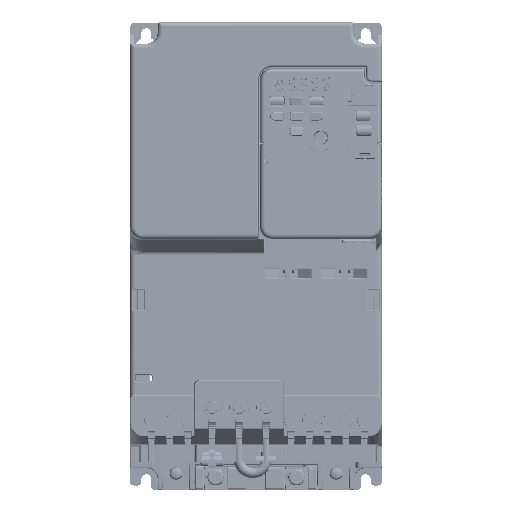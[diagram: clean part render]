
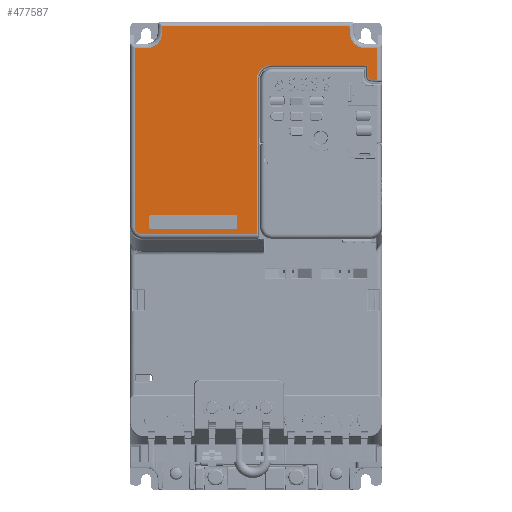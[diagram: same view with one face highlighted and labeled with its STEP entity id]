
A CAD part, top view. The second image highlights one B-rep face of the part: STEP entity #477587.
In plain terms, the highlighted planar face has unit normal (0, 0, 1).
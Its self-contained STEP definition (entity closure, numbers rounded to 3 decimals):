
#399556=CARTESIAN_POINT('',(-62.997,16.394,
70.));
#399557=DIRECTION('',(0.,0.,
-1.));
#399558=DIRECTION('',(-0.002,-1.,0.));
#399559=AXIS2_PLACEMENT_3D('',#399556,#399557,#399558);
#399561=CARTESIAN_POINT('',(-60.694,124.,70.));
#399562=DIRECTION('',(0.,0.,1.));
#399563=DIRECTION('',(0.,-1.,0.));
#399564=AXIS2_PLACEMENT_3D('',#399561,#399562,#399563);
#399566=DIRECTION('',(0.052,0.999,0.));
#399567=VECTOR('',#399566,3.95);
#399568=CARTESIAN_POINT('',(-52.205,123.555,70.));
#399569=LINE('',#399568,#399567);
#399570=DIRECTION('',(0.052,-0.999,0.));
#399571=VECTOR('',#399570,3.95);
#399572=CARTESIAN_POINT('',(51.999,127.5,70.));
#399573=LINE('',#399572,#399571);
#399574=CARTESIAN_POINT('',(60.694,124.,70.));
#399575=DIRECTION('',(0.,0.,1.));
#399576=DIRECTION('',(-0.999,-0.052,0.));
#399577=AXIS2_PLACEMENT_3D('',#399574,#399575,#399576);
#399579=DIRECTION('',(-0.999,0.052,0.));
#399580=VECTOR('',#399579,3.587);
#399581=CARTESIAN_POINT('',(67.5,97.748,
70.));
#399582=LINE('',#399581,#399580);
#399583=CARTESIAN_POINT('',(64.,99.5,70.));
#399584=DIRECTION('',(0.,0.,-1.));
#399585=DIRECTION('',(-0.052,-0.999,0.));
#399586=AXIS2_PLACEMENT_3D('',#399583,#399584,#399585);
#399588=CARTESIAN_POINT('',(9.,97.5,70.));
#399589=DIRECTION('',(0.,0.,1.));
#399590=DIRECTION('',(0.,1.,0.));
#399591=AXIS2_PLACEMENT_3D('',#399588,#399589,#399590);
#399593=DIRECTION('',(0.,1.,0.));
#399594=VECTOR('',#399593,85.608);
#399595=CARTESIAN_POINT('',(0.317,11.892,
70.));
#399596=LINE('',#399595,#399594);
#399620=DIRECTION('',(1.,0.,0.));
#399621=VECTOR('',#399620,51.434);
#399622=CARTESIAN_POINT('',(9.,106.183,70.));
#399623=LINE('',#399622,#399621);
#399785=DIRECTION('',(0.,-1.,0.));
#399786=VECTOR('',#399785,4.684);
#399787=CARTESIAN_POINT('',(62.433,104.184,
70.));
#399788=LINE('',#399787,#399786);
#399793=CARTESIAN_POINT('',(60.434,106.183,
70.));
#399794=CARTESIAN_POINT('',(60.65,106.183,
70.));
#399795=CARTESIAN_POINT('',(61.059,106.117,
70.));
#399796=CARTESIAN_POINT('',(61.63,105.828,
70.));
#399797=CARTESIAN_POINT('',(62.079,105.379,
70.));
#399798=CARTESIAN_POINT('',(62.367,104.808,
70.));
#399799=CARTESIAN_POINT('',(62.433,104.4,
70.));
#399800=CARTESIAN_POINT('',(62.433,104.184,
70.));
#399827=DIRECTION('',(0.,1.,0.));
#399828=VECTOR('',#399827,17.752);
#399829=CARTESIAN_POINT('',(67.5,97.748,
70.));
#399830=LINE('',#399829,#399828);
#399881=DIRECTION('',(-1.,0.,0.));
#399882=VECTOR('',#399881,6.806);
#399883=CARTESIAN_POINT('',(67.5,115.5,70.));
#399884=LINE('',#399883,#399882);
#412576=DIRECTION('',(1.,0.,0.));
#412577=VECTOR('',#412576,63.318);
#412578=CARTESIAN_POINT('',(-63.001,11.892,
70.));
#412579=LINE('',#412578,#412577);
#414355=DIRECTION('',(0.,-1.,0.));
#414356=VECTOR('',#414355,99.101);
#414357=CARTESIAN_POINT('',(-67.5,115.5,70.));
#414358=LINE('',#414357,#414356);
#414381=DIRECTION('',(-1.,0.,0.));
#414382=VECTOR('',#414381,6.806);
#414383=CARTESIAN_POINT('',(-60.694,115.5,70.));
#414384=LINE('',#414383,#414382);
#420221=DIRECTION('',(-1.,0.,0.));
#420222=VECTOR('',#420221,103.997);
#420223=CARTESIAN_POINT('',(51.999,127.5,70.));
#420224=LINE('',#420223,#420222);
#451230=CARTESIAN_POINT('',(52.205,123.555,70.));
#451231=CARTESIAN_POINT('',(60.694,115.5,70.));
#451232=VERTEX_POINT('',#451230);
#451233=VERTEX_POINT('',#451231);
#451234=CARTESIAN_POINT('',(0.317,11.892,
70.));
#451235=CARTESIAN_POINT('',(0.317,97.5,70.));
#451236=VERTEX_POINT('',#451234);
#451237=VERTEX_POINT('',#451235);
#451238=CARTESIAN_POINT('',(-63.001,11.892,
70.));
#451239=VERTEX_POINT('',#451238);
#451240=CARTESIAN_POINT('',(-67.5,16.402,
70.));
#451241=VERTEX_POINT('',#451240);
#451242=CARTESIAN_POINT('',(-67.5,115.5,70.));
#451243=VERTEX_POINT('',#451242);
#451244=CARTESIAN_POINT('',(-60.694,115.5,70.));
#451245=VERTEX_POINT('',#451244);
#451246=CARTESIAN_POINT('',(-52.205,123.555,70.));
#451247=VERTEX_POINT('',#451246);
#451248=CARTESIAN_POINT('',(-51.999,127.5,70.));
#451249=VERTEX_POINT('',#451248);
#451250=CARTESIAN_POINT('',(51.999,127.5,70.));
#451251=VERTEX_POINT('',#451250);
#451252=CARTESIAN_POINT('',(67.5,115.5,70.));
#451253=VERTEX_POINT('',#451252);
#451254=CARTESIAN_POINT('',(67.5,97.748,
70.));
#451255=VERTEX_POINT('',#451254);
#451256=CARTESIAN_POINT('',(63.918,97.936,70.));
#451257=VERTEX_POINT('',#451256);
#451258=CARTESIAN_POINT('',(62.433,99.5,70.));
#451259=VERTEX_POINT('',#451258);
#451260=CARTESIAN_POINT('',(62.433,104.184,
70.));
#451261=VERTEX_POINT('',#451260);
#451262=VERTEX_POINT('',#399793);
#451263=CARTESIAN_POINT('',(9.,106.183,70.));
#451264=VERTEX_POINT('',#451263);
#477545=CARTESIAN_POINT('',(0.,0.,70.));
#477546=DIRECTION('',(0.,0.,1.));
#477547=DIRECTION('',(1.,0.,0.));
#477548=AXIS2_PLACEMENT_3D('',#477545,#477546,#477547);
#477549=PLANE('',#477548);
#477551=ORIENTED_EDGE('',*,*,#477550,.F.);
#477553=ORIENTED_EDGE('',*,*,#477552,.F.);
#477555=ORIENTED_EDGE('',*,*,#477554,.T.);
#477557=ORIENTED_EDGE('',*,*,#477556,.F.);
#477559=ORIENTED_EDGE('',*,*,#477558,.F.);
#477561=ORIENTED_EDGE('',*,*,#477560,.T.);
#477563=ORIENTED_EDGE('',*,*,#477562,.T.);
#477565=ORIENTED_EDGE('',*,*,#477564,.F.);
#477567=ORIENTED_EDGE('',*,*,#477566,.T.);
#477568=ORIENTED_EDGE('',*,*,#477535,.T.);
#477570=ORIENTED_EDGE('',*,*,#477569,.F.);
#477572=ORIENTED_EDGE('',*,*,#477571,.F.);
#477574=ORIENTED_EDGE('',*,*,#477573,.T.);
#477576=ORIENTED_EDGE('',*,*,#477575,.T.);
#477578=ORIENTED_EDGE('',*,*,#477577,.F.);
#477580=ORIENTED_EDGE('',*,*,#477579,.F.);
#477582=ORIENTED_EDGE('',*,*,#477581,.F.);
#477584=ORIENTED_EDGE('',*,*,#477583,.T.);
#477585=EDGE_LOOP('',(#477551,#477553,#477555,#477557,#477559,#477561,#477563,
#477565,#477567,#477568,#477570,#477572,#477574,#477576,#477578,#477580,#477582,
#477584));
#477586=FACE_OUTER_BOUND('',#477585,.F.);
#477587=ADVANCED_FACE('',(#477586),#477549,.T.);
#399560=CIRCLE('',#399559,4.503);
#399565=CIRCLE('',#399564,8.5);
#399578=CIRCLE('',#399577,8.5);
#399587=CIRCLE('',#399586,1.567);
#399592=CIRCLE('',#399591,8.683);
#399801=B_SPLINE_CURVE_WITH_KNOTS('',3,(#399793,#399794,#399795,#399796,#399797,
#399798,#399799,#399800),.UNSPECIFIED.,.F.,.F.,(4,1,1,1,1,4),(0.,0.2,0.4,
0.6,0.8,1.),.UNSPECIFIED.);
#477535=EDGE_CURVE('',#451232,#451233,#399578,.T.);
#477550=EDGE_CURVE('',#451236,#451237,#399596,.T.);
#477552=EDGE_CURVE('',#451239,#451236,#412579,.T.);
#477554=EDGE_CURVE('',#451239,#451241,#399560,.T.);
#477556=EDGE_CURVE('',#451243,#451241,#414358,.T.);
#477558=EDGE_CURVE('',#451245,#451243,#414384,.T.);
#477560=EDGE_CURVE('',#451245,#451247,#399565,.T.);
#477562=EDGE_CURVE('',#451247,#451249,#399569,.T.);
#477564=EDGE_CURVE('',#451251,#451249,#420224,.T.);
#477566=EDGE_CURVE('',#451251,#451232,#399573,.T.);
#477569=EDGE_CURVE('',#451253,#451233,#399884,.T.);
#477571=EDGE_CURVE('',#451255,#451253,#399830,.T.);
#477573=EDGE_CURVE('',#451255,#451257,#399582,.T.);
#477575=EDGE_CURVE('',#451257,#451259,#399587,.T.);
#477577=EDGE_CURVE('',#451261,#451259,#399788,.T.);
#477579=EDGE_CURVE('',#451262,#451261,#399801,.T.);
#477581=EDGE_CURVE('',#451264,#451262,#399623,.T.);
#477583=EDGE_CURVE('',#451264,#451237,#399592,.T.);
